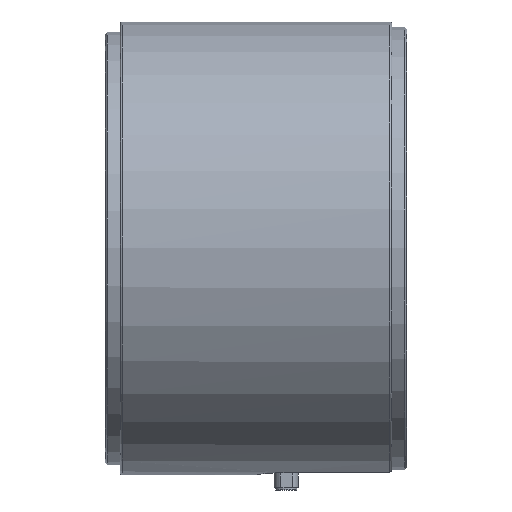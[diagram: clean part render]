
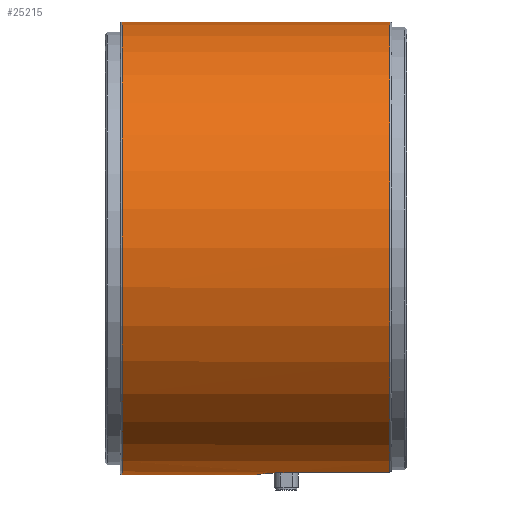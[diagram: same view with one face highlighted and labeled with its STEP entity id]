
A CAD part, left-side view. The second image highlights one B-rep face of the part: STEP entity #25215.
In plain terms, the highlighted cylindrical face has radius 112.5 mm (diameter 225 mm), a partial arc.
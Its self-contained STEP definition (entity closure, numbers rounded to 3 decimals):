
#502 = DIRECTION ( 'NONE',  ( 0., 1., 0. ) ) ;
#596 = CARTESIAN_POINT ( 'NONE',  ( 0., 1., 112.5 ) ) ;
#728 = CARTESIAN_POINT ( 'NONE',  ( 17.34, -65.897, 111.156 ) ) ;
#830 = CARTESIAN_POINT ( 'NONE',  ( 8.507, -1.392, 112.179 ) ) ;
#837 = CARTESIAN_POINT ( 'NONE',  ( 17.842, -66.203, 111.076 ) ) ;
#939 = EDGE_CURVE ( 'NONE', #21765, #31371, #4942, .T. ) ;
#951 = CARTESIAN_POINT ( 'NONE',  ( 16.143, -63.901, 111.336 ) ) ;
#3152 = LINE ( 'NONE', #7531, #33961 ) ;
#3220 = CARTESIAN_POINT ( 'NONE',  ( 14.697, -8.359, 111.536 ) ) ;
#3571 = CARTESIAN_POINT ( 'NONE',  ( 16.143, -15., 111.336 ) ) ;
#3692 = CARTESIAN_POINT ( 'NONE',  ( 17.184, -65.772, 111.18 ) ) ;
#3758 = ORIENTED_EDGE ( 'NONE', *, *, #10288, .T. ) ;
#3797 = CARTESIAN_POINT ( 'NONE',  ( 16.902, -65.496, 111.223 ) ) ;
#4456 = AXIS2_PLACEMENT_3D ( 'NONE', #10612, #4872, #32205 ) ;
#4872 = DIRECTION ( 'NONE',  ( 0., -1., 0. ) ) ;
#4942 = B_SPLINE_CURVE_WITH_KNOTS ( 'NONE', 3,
 ( #596, #8738, #14271, #24548, #33147, #21944, #14164, #8383, #33023, #16985, #830, #21829, #19360, #27252, #11077, #29952, #13810, #8497, #3220, #22068, #8617, #22765, #28284, #31013, #6703, #3571 ),
 .UNSPECIFIED., .F., .F.,
 ( 4, 2, 2, 2, 2, 2, 2, 2, 2, 2, 2, 2, 4 ),
 ( 0.025, 0.027, 0.028, 0.031, 0.033, 0.035, 0.038, 0.041, 0.042, 0.044, 0.047, 0.049, 0.05 ),
 .UNSPECIFIED. ) ;
#5114 = ORIENTED_EDGE ( 'NONE', *, *, #23581, .T. ) ;
#5972 = DIRECTION ( 'NONE',  ( 0., -1., 0. ) ) ;
#6262 = CARTESIAN_POINT ( 'NONE',  ( 16.143, -63.5, 111.336 ) ) ;
#6487 = CARTESIAN_POINT ( 'NONE',  ( 18.206, -66.35, 111.017 ) ) ;
#6703 = CARTESIAN_POINT ( 'NONE',  ( 16.143, -14.469, 111.336 ) ) ;
#7159 = ORIENTED_EDGE ( 'NONE', *, *, #17130, .T. ) ;
#7354 = ORIENTED_EDGE ( 'NONE', *, *, #29457, .T. ) ;
#7531 = CARTESIAN_POINT ( 'NONE',  ( 0., 0., 112.5 ) ) ;
#8383 = CARTESIAN_POINT ( 'NONE',  ( 6.642, -0.408, 112.305 ) ) ;
#8413 = ORIENTED_EDGE ( 'NONE', *, *, #939, .T. ) ;
#8497 = CARTESIAN_POINT ( 'NONE',  ( 14.466, -7.879, 111.566 ) ) ;
#8617 = CARTESIAN_POINT ( 'NONE',  ( 15.617, -10.814, 111.411 ) ) ;
#8663 = CARTESIAN_POINT ( 'NONE',  ( 0., -66.5, 0. ) ) ;
#8738 = CARTESIAN_POINT ( 'NONE',  ( 0.525, 1., 112.5 ) ) ;
#8771 = CARTESIAN_POINT ( 'NONE',  ( 0., 66.5, -112.5 ) ) ;
#9393 = VERTEX_POINT ( 'NONE', #12153 ) ;
#10288 = EDGE_CURVE ( 'NONE', #20452, #30388, #23050, .T. ) ;
#10361 = ORIENTED_EDGE ( 'NONE', *, *, #15542, .T. ) ;
#10612 = CARTESIAN_POINT ( 'NONE',  ( 0., 66.5, 0. ) ) ;
#10948 = LINE ( 'NONE', #32926, #14310 ) ;
#11077 = CARTESIAN_POINT ( 'NONE',  ( 12.81, -5.207, 111.77 ) ) ;
#11444 = CARTESIAN_POINT ( 'NONE',  ( 16.226, -64.298, 111.324 ) ) ;
#11505 = AXIS2_PLACEMENT_3D ( 'NONE', #8663, #30119, #13964 ) ;
#12032 = CARTESIAN_POINT ( 'NONE',  ( 0., 0., 0. ) ) ;
#12153 = CARTESIAN_POINT ( 'NONE',  ( 0., -66.5, -112.5 ) ) ;
#13260 = FACE_OUTER_BOUND ( 'NONE', #14082, .T. ) ;
#13675 = CYLINDRICAL_SURFACE ( 'NONE', #34601, 112.5 ) ;
#13810 = CARTESIAN_POINT ( 'NONE',  ( 13.963, -6.953, 111.63 ) ) ;
#13964 = DIRECTION ( 'NONE',  ( 0., 0., 1. ) ) ;
#14082 = EDGE_LOOP ( 'NONE', ( #7159, #5114, #3758, #23411, #8413, #7354, #10361 ) ) ;
#14164 = CARTESIAN_POINT ( 'NONE',  ( 5.18, 0.19, 112.385 ) ) ;
#14271 = CARTESIAN_POINT ( 'NONE',  ( 1.051, 0.975, 112.496 ) ) ;
#14310 = VECTOR ( 'NONE', #502, 1000. ) ;
#15542 = EDGE_CURVE ( 'NONE', #19084, #25909, #29639, .T. ) ;
#16701 = CARTESIAN_POINT ( 'NONE',  ( 19.17, -66.5, 110.855 ) ) ;
#16985 = CARTESIAN_POINT ( 'NONE',  ( 8.056, -1.125, 112.212 ) ) ;
#17130 = EDGE_CURVE ( 'NONE', #25909, #9393, #22880, .T. ) ;
#17227 = CARTESIAN_POINT ( 'NONE',  ( 18.779, -66.481, 110.922 ) ) ;
#17235 = DIRECTION ( 'NONE',  ( 0., 0., 1. ) ) ;
#17940 = LINE ( 'NONE', #24988, #26825 ) ;
#18385 = DIRECTION ( 'NONE',  ( 0., 1., 0. ) ) ;
#19084 = VERTEX_POINT ( 'NONE', #28336 ) ;
#19360 = CARTESIAN_POINT ( 'NONE',  ( 10.633, -2.915, 111.999 ) ) ;
#20452 = VERTEX_POINT ( 'NONE', #8771 ) ;
#21136 = CARTESIAN_POINT ( 'NONE',  ( 0., 1., 112.5 ) ) ;
#21765 = VERTEX_POINT ( 'NONE', #21136 ) ;
#21829 = CARTESIAN_POINT ( 'NONE',  ( 9.817, -2.256, 112.074 ) ) ;
#21944 = CARTESIAN_POINT ( 'NONE',  ( 4.177, 0.49, 112.427 ) ) ;
#22068 = CARTESIAN_POINT ( 'NONE',  ( 15.309, -9.814, 111.454 ) ) ;
#22313 = CARTESIAN_POINT ( 'NONE',  ( 17.668, -66.112, 111.104 ) ) ;
#22665 = CARTESIAN_POINT ( 'NONE',  ( 16.456, -64.843, 111.29 ) ) ;
#22765 = CARTESIAN_POINT ( 'NONE',  ( 15.931, -12.359, 111.366 ) ) ;
#22784 = DIRECTION ( 'NONE',  ( 0., 1., 0. ) ) ;
#22880 = CIRCLE ( 'NONE', #11505, 112.5 ) ;
#23050 = CIRCLE ( 'NONE', #4456, 112.5 ) ;
#23411 = ORIENTED_EDGE ( 'NONE', *, *, #25446, .F. ) ;
#23581 = EDGE_CURVE ( 'NONE', #9393, #20452, #10948, .T. ) ;
#23609 = CARTESIAN_POINT ( 'NONE',  ( 16.143, -15., 111.336 ) ) ;
#24548 = CARTESIAN_POINT ( 'NONE',  ( 2.106, 0.872, 112.482 ) ) ;
#24921 = CARTESIAN_POINT ( 'NONE',  ( 16.552, -65.019, 111.276 ) ) ;
#24988 = CARTESIAN_POINT ( 'NONE',  ( 16.143, 0., 111.336 ) ) ;
#25156 = CARTESIAN_POINT ( 'NONE',  ( 18.973, -66.5, 110.889 ) ) ;
#25215 = ADVANCED_FACE ( 'NONE', ( #13260 ), #13675, .T. ) ;
#25446 = EDGE_CURVE ( 'NONE', #21765, #30388, #3152, .T. ) ;
#25909 = VERTEX_POINT ( 'NONE', #16701 ) ;
#26825 = VECTOR ( 'NONE', #5972, 1000. ) ;
#27252 = CARTESIAN_POINT ( 'NONE',  ( 12.141, -4.402, 111.846 ) ) ;
#28284 = CARTESIAN_POINT ( 'NONE',  ( 16.01, -12.882, 111.355 ) ) ;
#28336 = CARTESIAN_POINT ( 'NONE',  ( 16.143, -63.5, 111.336 ) ) ;
#29457 = EDGE_CURVE ( 'NONE', #31371, #19084, #17940, .T. ) ;
#29639 = B_SPLINE_CURVE_WITH_KNOTS ( 'NONE', 3,
 ( #6262, #951, #11444, #22665, #24921, #33380, #3797, #3692, #728, #22313, #837, #6487, #33271, #17227, #25156, #30328 ),
 .UNSPECIFIED., .F., .F.,
 ( 4, 2, 2, 2, 2, 2, 2, 4 ),
 ( 0., 0.001, 0.002, 0.002, 0.003, 0.004, 0.004, 0.005 ),
 .UNSPECIFIED. ) ;
#29952 = CARTESIAN_POINT ( 'NONE',  ( 13.69, -6.505, 111.664 ) ) ;
#30119 = DIRECTION ( 'NONE',  ( 0., 1., 0. ) ) ;
#30328 = CARTESIAN_POINT ( 'NONE',  ( 19.17, -66.5, 110.855 ) ) ;
#30388 = VERTEX_POINT ( 'NONE', #31266 ) ;
#31013 = CARTESIAN_POINT ( 'NONE',  ( 16.117, -13.939, 111.34 ) ) ;
#31266 = CARTESIAN_POINT ( 'NONE',  ( 0., 66.5, 112.5 ) ) ;
#31371 = VERTEX_POINT ( 'NONE', #23609 ) ;
#32205 = DIRECTION ( 'NONE',  ( 0., 0., -1. ) ) ;
#32926 = CARTESIAN_POINT ( 'NONE',  ( 0., 0., -112.5 ) ) ;
#33023 = CARTESIAN_POINT ( 'NONE',  ( 7.125, -0.633, 112.275 ) ) ;
#33147 = CARTESIAN_POINT ( 'NONE',  ( 2.63, 0.795, 112.47 ) ) ;
#33271 = CARTESIAN_POINT ( 'NONE',  ( 18.396, -66.407, 110.986 ) ) ;
#33380 = CARTESIAN_POINT ( 'NONE',  ( 16.776, -65.346, 111.242 ) ) ;
#33961 = VECTOR ( 'NONE', #18385, 1000. ) ;
#34601 = AXIS2_PLACEMENT_3D ( 'NONE', #12032, #22784, #17235 ) ;
